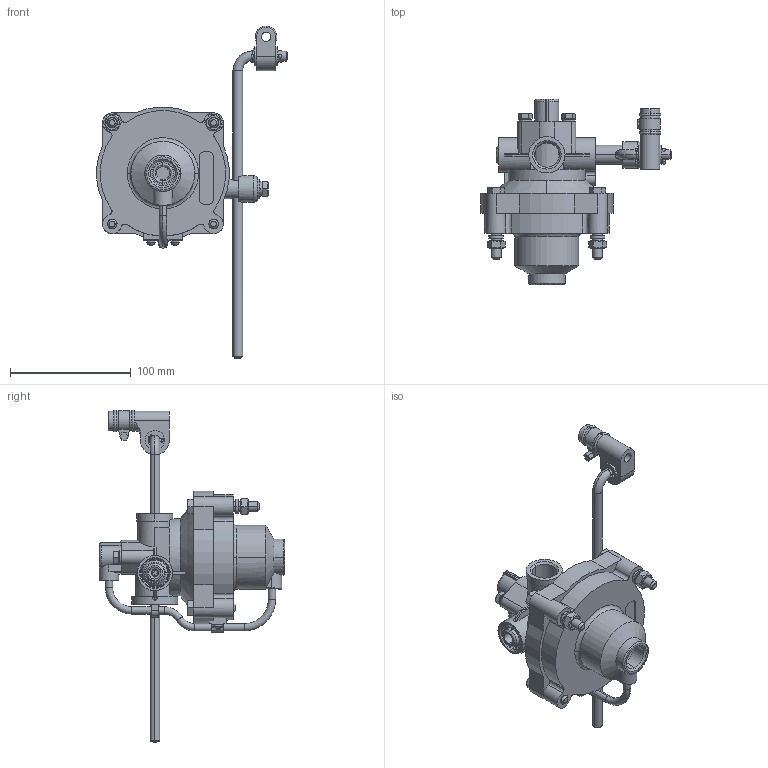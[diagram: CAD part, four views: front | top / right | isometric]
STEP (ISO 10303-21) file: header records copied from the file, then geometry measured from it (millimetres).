
FILE_DESCRIPTION((''),'2;1');
FILE_NAME('PRT0010','2023-10-30T',('jouravsky'),(''),'PRO/ENGINEER BY PARAMETRIC TECHNOLOGY CORPORATION, 2007450','PRO/ENGINEER BY PARAMETRIC TECHNOLOGY CORPORATION, 2007450','');
FILE_SCHEMA(('CONFIG_CONTROL_DESIGN'));
Length unit declared in the file: millimetre
Products named in the file (1): PRT0010
Bounding box: 157.8 x 153.5 x 275 mm (x, y, z)
Volume: 299064.4 mm3; surface area: 155179.6 mm2
Topology: 7 solids, 18 shells, 1161 faces, 2893 edges, 1806 vertices
Faces by surface type: plane 436, cylinder 417, cone 184, torus 61, revolution 32, extrusion 15, bspline 12, sphere 4
Entity records: 37543 total; most frequent: CARTESIAN_POINT 9693, DIRECTION 5898, ORIENTED_EDGE 5770, EDGE_CURVE 2885, AXIS2_PLACEMENT_3D 2301, VERTEX_POINT 1806, EDGE_LOOP 1281, VECTOR 1264
